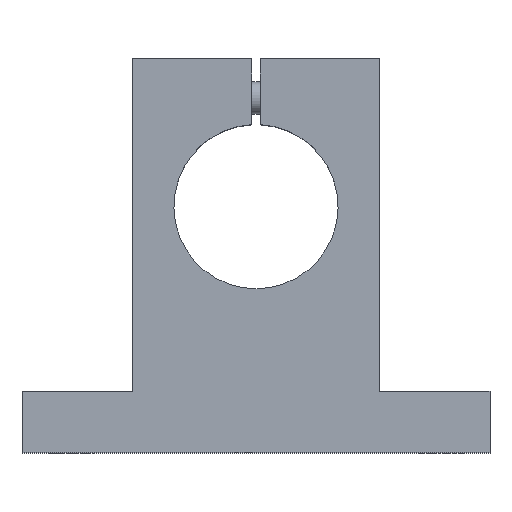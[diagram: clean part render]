
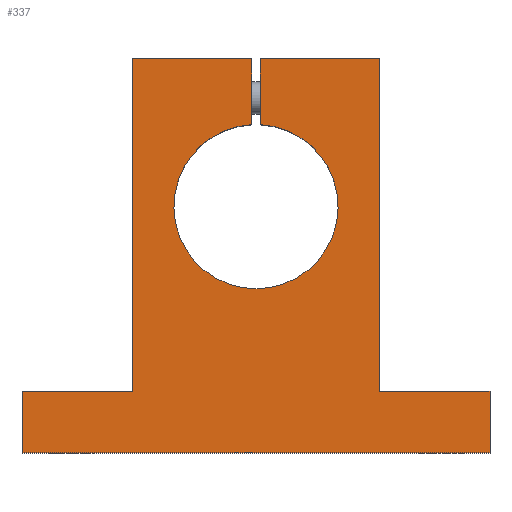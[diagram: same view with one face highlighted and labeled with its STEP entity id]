
A CAD part, top view. The second image highlights one B-rep face of the part: STEP entity #337.
In plain terms, the highlighted planar face has unit normal (0, 0, 1).
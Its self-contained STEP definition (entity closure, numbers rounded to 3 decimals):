
#2 = ORIENTED_EDGE ( 'NONE', *, *, #243, .T. ) ;
#4 = DIRECTION ( 'NONE',  ( -1., 0., 0. ) ) ;
#15 = CARTESIAN_POINT ( 'NONE',  ( 0., 0., 0. ) ) ;
#22 = ORIENTED_EDGE ( 'NONE', *, *, #360, .T. ) ;
#23 = CARTESIAN_POINT ( 'NONE',  ( 30., 36., 0. ) ) ;
#27 = LINE ( 'NONE', #711, #933 ) ;
#33 = PLANE ( 'NONE',  #622 ) ;
#41 = ORIENTED_EDGE ( 'NONE', *, *, #1048, .T. ) ;
#99 = DIRECTION ( 'NONE',  ( 0., 1., 0. ) ) ;
#100 = VECTOR ( 'NONE', #164, 1000. ) ;
#109 = VERTEX_POINT ( 'NONE', #934 ) ;
#114 = LINE ( 'NONE', #706, #652 ) ;
#115 = VERTEX_POINT ( 'NONE', #852 ) ;
#121 = FACE_OUTER_BOUND ( 'NONE', #981, .T. ) ;
#154 = CIRCLE ( 'NONE', #350, 20. ) ;
#156 = CARTESIAN_POINT ( 'NONE',  ( 30., -45., 0. ) ) ;
#157 = AXIS2_PLACEMENT_3D ( 'NONE', #253, #264, #159 ) ;
#159 = DIRECTION ( 'NONE',  ( 1., 0., 0. ) ) ;
#162 = LINE ( 'NONE', #255, #977 ) ;
#164 = DIRECTION ( 'NONE',  ( 0., -1., 0. ) ) ;
#165 = ORIENTED_EDGE ( 'NONE', *, *, #230, .T. ) ;
#188 = VERTEX_POINT ( 'NONE', #597 ) ;
#192 = CARTESIAN_POINT ( 'NONE',  ( 30., -45., 0. ) ) ;
#197 = EDGE_CURVE ( 'NONE', #673, #988, #850, .T. ) ;
#206 = ORIENTED_EDGE ( 'NONE', *, *, #629, .T. ) ;
#215 = VERTEX_POINT ( 'NONE', #607 ) ;
#219 = LINE ( 'NONE', #943, #968 ) ;
#230 = EDGE_CURVE ( 'NONE', #453, #109, #506, .T. ) ;
#243 = EDGE_CURVE ( 'NONE', #811, #279, #114, .T. ) ;
#253 = CARTESIAN_POINT ( 'NONE',  ( 0., 0., 0. ) ) ;
#255 = CARTESIAN_POINT ( 'NONE',  ( -57., -60., 0. ) ) ;
#257 = DIRECTION ( 'NONE',  ( 0., 1., 0. ) ) ;
#263 = VECTOR ( 'NONE', #257, 1000. ) ;
#264 = DIRECTION ( 'NONE',  ( 0., 0., -1. ) ) ;
#279 = VERTEX_POINT ( 'NONE', #458 ) ;
#282 = DIRECTION ( 'NONE',  ( 0., 0., 1. ) ) ;
#283 = ORIENTED_EDGE ( 'NONE', *, *, #465, .T. ) ;
#294 = ORIENTED_EDGE ( 'NONE', *, *, #552, .T. ) ;
#317 = VECTOR ( 'NONE', #1062, 1000. ) ;
#337 = ADVANCED_FACE ( 'NONE', ( #121 ), #33, .T. ) ;
#350 = AXIS2_PLACEMENT_3D ( 'NONE', #497, #1033, #1023 ) ;
#352 = CARTESIAN_POINT ( 'NONE',  ( 57., -45., 0. ) ) ;
#360 = EDGE_CURVE ( 'NONE', #988, #115, #27, .T. ) ;
#374 = VERTEX_POINT ( 'NONE', #1069 ) ;
#375 = DIRECTION ( 'NONE',  ( -1., 0., 0. ) ) ;
#378 = DIRECTION ( 'NONE',  ( 0., 1., 0. ) ) ;
#384 = DIRECTION ( 'NONE',  ( -1., 0., 0. ) ) ;
#453 = VERTEX_POINT ( 'NONE', #562 ) ;
#458 = CARTESIAN_POINT ( 'NONE',  ( 1., 19.975, 0. ) ) ;
#465 = EDGE_CURVE ( 'NONE', #109, #188, #219, .T. ) ;
#497 = CARTESIAN_POINT ( 'NONE',  ( 0., 0., 0. ) ) ;
#506 = LINE ( 'NONE', #939, #100 ) ;
#512 = ORIENTED_EDGE ( 'NONE', *, *, #672, .T. ) ;
#538 = EDGE_CURVE ( 'NONE', #188, #642, #709, .T. ) ;
#552 = EDGE_CURVE ( 'NONE', #846, #374, #976, .T. ) ;
#562 = CARTESIAN_POINT ( 'NONE',  ( -30., 36., 0. ) ) ;
#573 = VERTEX_POINT ( 'NONE', #352 ) ;
#584 = EDGE_CURVE ( 'NONE', #215, #573, #694, .T. ) ;
#597 = CARTESIAN_POINT ( 'NONE',  ( -57., -45., 0. ) ) ;
#607 = CARTESIAN_POINT ( 'NONE',  ( 57., -60., 0. ) ) ;
#619 = ORIENTED_EDGE ( 'NONE', *, *, #584, .T. ) ;
#622 = AXIS2_PLACEMENT_3D ( 'NONE', #15, #282, #723 ) ;
#629 = EDGE_CURVE ( 'NONE', #573, #846, #1124, .T. ) ;
#630 = VECTOR ( 'NONE', #375, 1000. ) ;
#636 = ORIENTED_EDGE ( 'NONE', *, *, #538, .T. ) ;
#642 = VERTEX_POINT ( 'NONE', #1040 ) ;
#652 = VECTOR ( 'NONE', #1059, 1000. ) ;
#670 = VECTOR ( 'NONE', #99, 1000. ) ;
#672 = EDGE_CURVE ( 'NONE', #115, #453, #827, .T. ) ;
#673 = VERTEX_POINT ( 'NONE', #722 ) ;
#694 = LINE ( 'NONE', #1056, #263 ) ;
#706 = CARTESIAN_POINT ( 'NONE',  ( 1., 0., 0. ) ) ;
#709 = LINE ( 'NONE', #1049, #317 ) ;
#711 = CARTESIAN_POINT ( 'NONE',  ( -1., 18., 0. ) ) ;
#722 = CARTESIAN_POINT ( 'NONE',  ( 0., -20., 0. ) ) ;
#723 = DIRECTION ( 'NONE',  ( 1., 0., 0. ) ) ;
#784 = CARTESIAN_POINT ( 'NONE',  ( 57., -45., 0. ) ) ;
#800 = ORIENTED_EDGE ( 'NONE', *, *, #971, .T. ) ;
#811 = VERTEX_POINT ( 'NONE', #947 ) ;
#821 = CARTESIAN_POINT ( 'NONE',  ( 30., 36., 0. ) ) ;
#827 = LINE ( 'NONE', #821, #851 ) ;
#846 = VERTEX_POINT ( 'NONE', #156 ) ;
#850 = CIRCLE ( 'NONE', #157, 20. ) ;
#851 = VECTOR ( 'NONE', #901, 1000. ) ;
#852 = CARTESIAN_POINT ( 'NONE',  ( -1., 36., 0. ) ) ;
#889 = EDGE_CURVE ( 'NONE', #279, #673, #154, .T. ) ;
#901 = DIRECTION ( 'NONE',  ( -1., 0., 0. ) ) ;
#908 = VECTOR ( 'NONE', #4, 1000. ) ;
#933 = VECTOR ( 'NONE', #378, 1000. ) ;
#934 = CARTESIAN_POINT ( 'NONE',  ( -30., -45., 0. ) ) ;
#939 = CARTESIAN_POINT ( 'NONE',  ( -30., 36., 0. ) ) ;
#943 = CARTESIAN_POINT ( 'NONE',  ( -30., -45., 0. ) ) ;
#947 = CARTESIAN_POINT ( 'NONE',  ( 1., 36., 0. ) ) ;
#951 = CARTESIAN_POINT ( 'NONE',  ( -1., 19.975, 0. ) ) ;
#968 = VECTOR ( 'NONE', #384, 1000. ) ;
#971 = EDGE_CURVE ( 'NONE', #642, #215, #162, .T. ) ;
#973 = ORIENTED_EDGE ( 'NONE', *, *, #889, .T. ) ;
#976 = LINE ( 'NONE', #192, #670 ) ;
#977 = VECTOR ( 'NONE', #1127, 1000. ) ;
#981 = EDGE_LOOP ( 'NONE', ( #2, #973, #1099, #22, #512, #165, #283, #636, #800, #619, #206, #294, #41 ) ) ;
#988 = VERTEX_POINT ( 'NONE', #951 ) ;
#1023 = DIRECTION ( 'NONE',  ( 1., 0., 0. ) ) ;
#1033 = DIRECTION ( 'NONE',  ( 0., 0., -1. ) ) ;
#1040 = CARTESIAN_POINT ( 'NONE',  ( -57., -60., 0. ) ) ;
#1048 = EDGE_CURVE ( 'NONE', #374, #811, #1072, .T. ) ;
#1049 = CARTESIAN_POINT ( 'NONE',  ( -57., -45., 0. ) ) ;
#1056 = CARTESIAN_POINT ( 'NONE',  ( 57., -60., 0. ) ) ;
#1059 = DIRECTION ( 'NONE',  ( 0., -1., 0. ) ) ;
#1062 = DIRECTION ( 'NONE',  ( 0., -1., 0. ) ) ;
#1069 = CARTESIAN_POINT ( 'NONE',  ( 30., 36., 0. ) ) ;
#1072 = LINE ( 'NONE', #23, #630 ) ;
#1099 = ORIENTED_EDGE ( 'NONE', *, *, #197, .T. ) ;
#1124 = LINE ( 'NONE', #784, #908 ) ;
#1127 = DIRECTION ( 'NONE',  ( 1., 0., 0. ) ) ;
